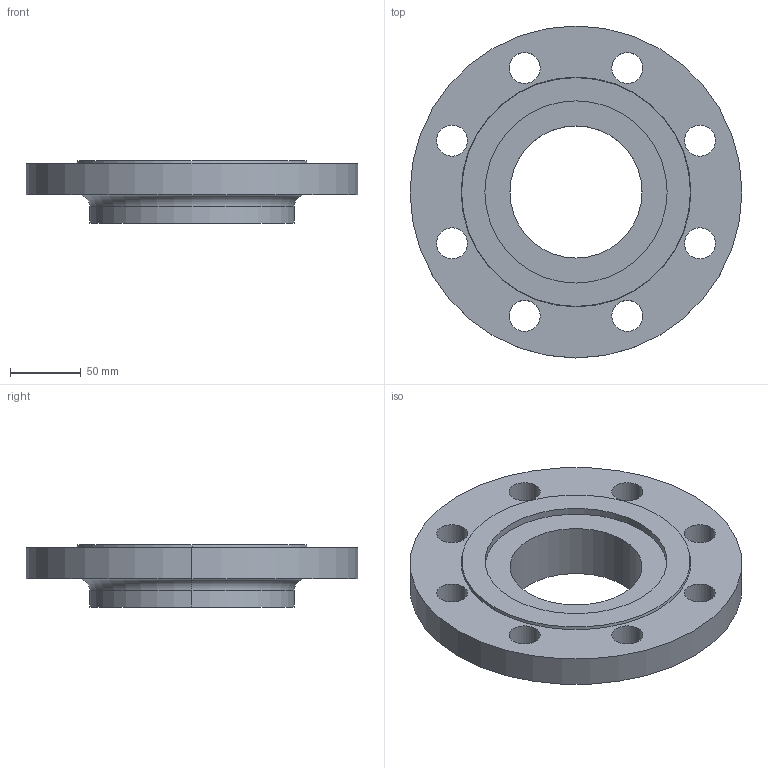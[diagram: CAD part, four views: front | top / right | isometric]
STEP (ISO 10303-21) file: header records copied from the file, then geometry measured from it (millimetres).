
FILE_DESCRIPTION (( 'STEP AP214' ), '1' );
FILE_NAME ('PN40 DN100 Type 13 - Type G Face.STEP', '2019-01-02T00:17:39', ( '' ), ( '' ), 'SwSTEP 2.0', 'SolidWorks 2019', '' );
FILE_SCHEMA (( 'AUTOMOTIVE_DESIGN' ));
Length unit declared in the file: millimetre
Products named in the file (1): PN40 DN100 Type 13 - Type G Face
Bounding box: 235 x 235 x 44 mm (x, y, z)
Volume: 932233.1 mm3; surface area: 117251.3 mm2
Topology: 1 solids, 1 shells, 33 faces, 82 edges, 54 vertices
Faces by surface type: cylinder 24, plane 5, torus 2, cone 2
Entity records: 1086 total; most frequent: DIRECTION 206, CARTESIAN_POINT 170, ORIENTED_EDGE 164, AXIS2_PLACEMENT_3D 90, EDGE_CURVE 82, CIRCLE 56, EDGE_LOOP 54, VERTEX_POINT 54
